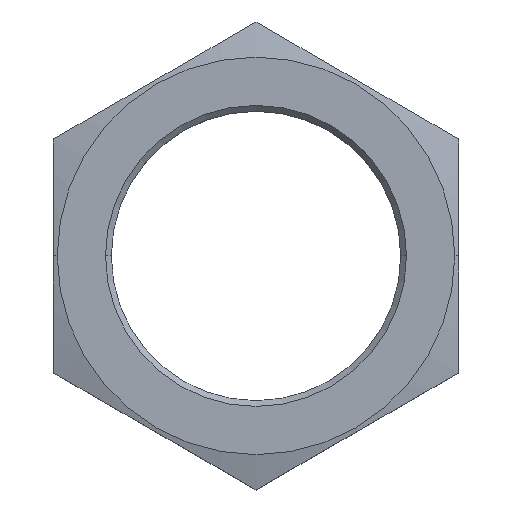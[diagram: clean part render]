
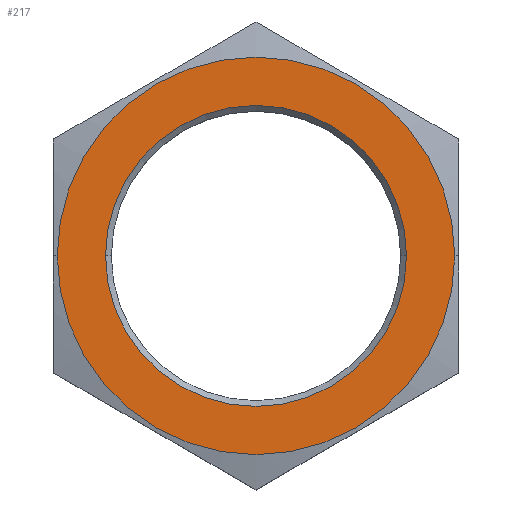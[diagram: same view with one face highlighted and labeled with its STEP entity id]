
A CAD part, top view. The second image highlights one B-rep face of the part: STEP entity #217.
In plain terms, the highlighted planar face has unit normal (0, 0, 1).
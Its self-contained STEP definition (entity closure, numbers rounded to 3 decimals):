
#26 = CIRCLE ( 'NONE', #130, 7.8 ) ;
#40 = FACE_BOUND ( 'NONE', #562, .T. ) ;
#41 = FACE_OUTER_BOUND ( 'NONE', #552, .T. ) ;
#67 = EDGE_CURVE ( 'NONE', #178, #189, #571, .T. ) ;
#82 = EDGE_CURVE ( 'NONE', #189, #178, #593, .T. ) ;
#90 = EDGE_CURVE ( 'NONE', #186, #179, #589, .T. ) ;
#105 = AXIS2_PLACEMENT_3D ( 'NONE', #290, #292, #282 ) ;
#117 = AXIS2_PLACEMENT_3D ( 'NONE', #346, #342, #341 ) ;
#123 = AXIS2_PLACEMENT_3D ( 'NONE', #242, #234, #245 ) ;
#129 = EDGE_CURVE ( 'NONE', #179, #186, #26, .T. ) ;
#130 = AXIS2_PLACEMENT_3D ( 'NONE', #413, #388, #373 ) ;
#142 = AXIS2_PLACEMENT_3D ( 'NONE', #488, #477, #518 ) ;
#178 = VERTEX_POINT ( 'NONE', #459 ) ;
#179 = VERTEX_POINT ( 'NONE', #443 ) ;
#186 = VERTEX_POINT ( 'NONE', #446 ) ;
#189 = VERTEX_POINT ( 'NONE', #456 ) ;
#217 = ADVANCED_FACE ( 'NONE', ( #40, #41 ), #496, .T. ) ;
#234 = DIRECTION ( 'NONE',  ( 0., 0., 1. ) ) ;
#242 = CARTESIAN_POINT ( 'NONE',  ( 0., 0., 5. ) ) ;
#245 = DIRECTION ( 'NONE',  ( 1., 0., 0. ) ) ;
#282 = DIRECTION ( 'NONE',  ( 1., 0., 0. ) ) ;
#290 = CARTESIAN_POINT ( 'NONE',  ( 0., 0., 5. ) ) ;
#292 = DIRECTION ( 'NONE',  ( 0., 0., 1. ) ) ;
#341 = DIRECTION ( 'NONE',  ( 1., 0., 0. ) ) ;
#342 = DIRECTION ( 'NONE',  ( 0., 0., -1. ) ) ;
#346 = CARTESIAN_POINT ( 'NONE',  ( 0., 0., 5. ) ) ;
#373 = DIRECTION ( 'NONE',  ( 1., 0., 0. ) ) ;
#388 = DIRECTION ( 'NONE',  ( 0., 0., -1. ) ) ;
#413 = CARTESIAN_POINT ( 'NONE',  ( 0., 0., 5. ) ) ;
#443 = CARTESIAN_POINT ( 'NONE',  ( -7.8, 0., 5. ) ) ;
#446 = CARTESIAN_POINT ( 'NONE',  ( 7.8, 0., 5. ) ) ;
#456 = CARTESIAN_POINT ( 'NONE',  ( -10.3, 0., 5. ) ) ;
#459 = CARTESIAN_POINT ( 'NONE',  ( 10.3, 0., 5. ) ) ;
#477 = DIRECTION ( 'NONE',  ( 0., 0., 1. ) ) ;
#488 = CARTESIAN_POINT ( 'NONE',  ( 0., 0., 5. ) ) ;
#496 = PLANE ( 'NONE',  #142 ) ;
#518 = DIRECTION ( 'NONE',  ( 1., 0., 0. ) ) ;
#552 = EDGE_LOOP ( 'NONE', ( #624, #649 ) ) ;
#562 = EDGE_LOOP ( 'NONE', ( #639, #646 ) ) ;
#571 = CIRCLE ( 'NONE', #123, 10.3 ) ;
#589 = CIRCLE ( 'NONE', #117, 7.8 ) ;
#593 = CIRCLE ( 'NONE', #105, 10.3 ) ;
#624 = ORIENTED_EDGE ( 'NONE', *, *, #82, .T. ) ;
#639 = ORIENTED_EDGE ( 'NONE', *, *, #90, .T. ) ;
#646 = ORIENTED_EDGE ( 'NONE', *, *, #129, .T. ) ;
#649 = ORIENTED_EDGE ( 'NONE', *, *, #67, .T. ) ;
